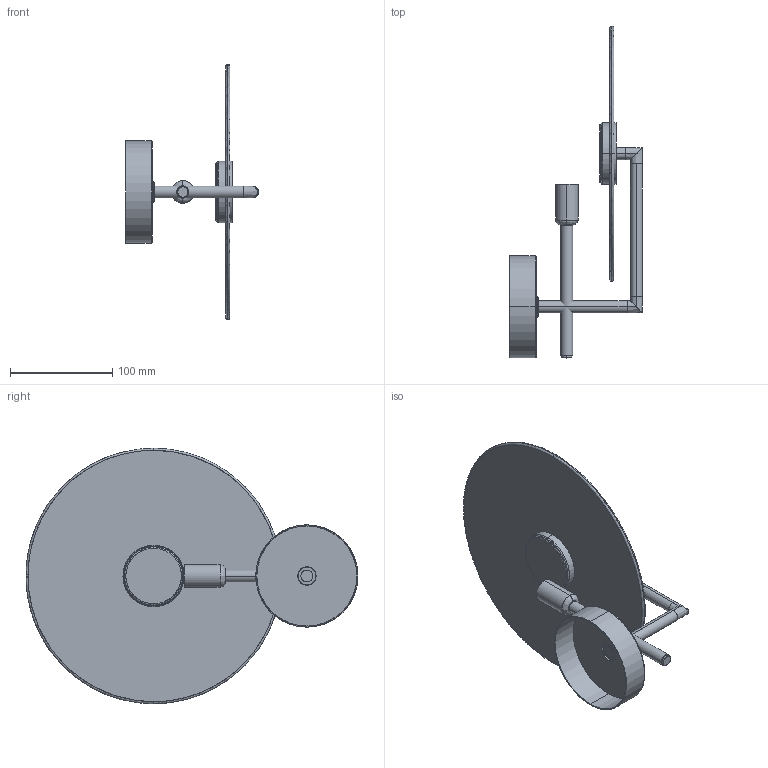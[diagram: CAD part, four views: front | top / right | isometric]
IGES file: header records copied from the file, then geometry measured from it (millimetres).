
Start section: SolidWorks IGES file using analytic representation for surfaces
Global section: file name: C:\Users\Agus\Desktop\AROMAS\PROPUESTAS ENERO 2020\aplique seed\a1257.IGS; native system: SolidWorks 2018; preprocessor: SolidWorks 2018; author: Agus; date: 200406.104151; units: millimetre
Bounding box: 130 x 324.89 x 250 mm (x, y, z)
Surface area: 174078.4 mm2 (no closed solid volume)
Topology: 0 solids, 0 shells, 99 faces, 1864 edges, 1864 vertices
Faces by surface type: revolution 58, bspline 41
